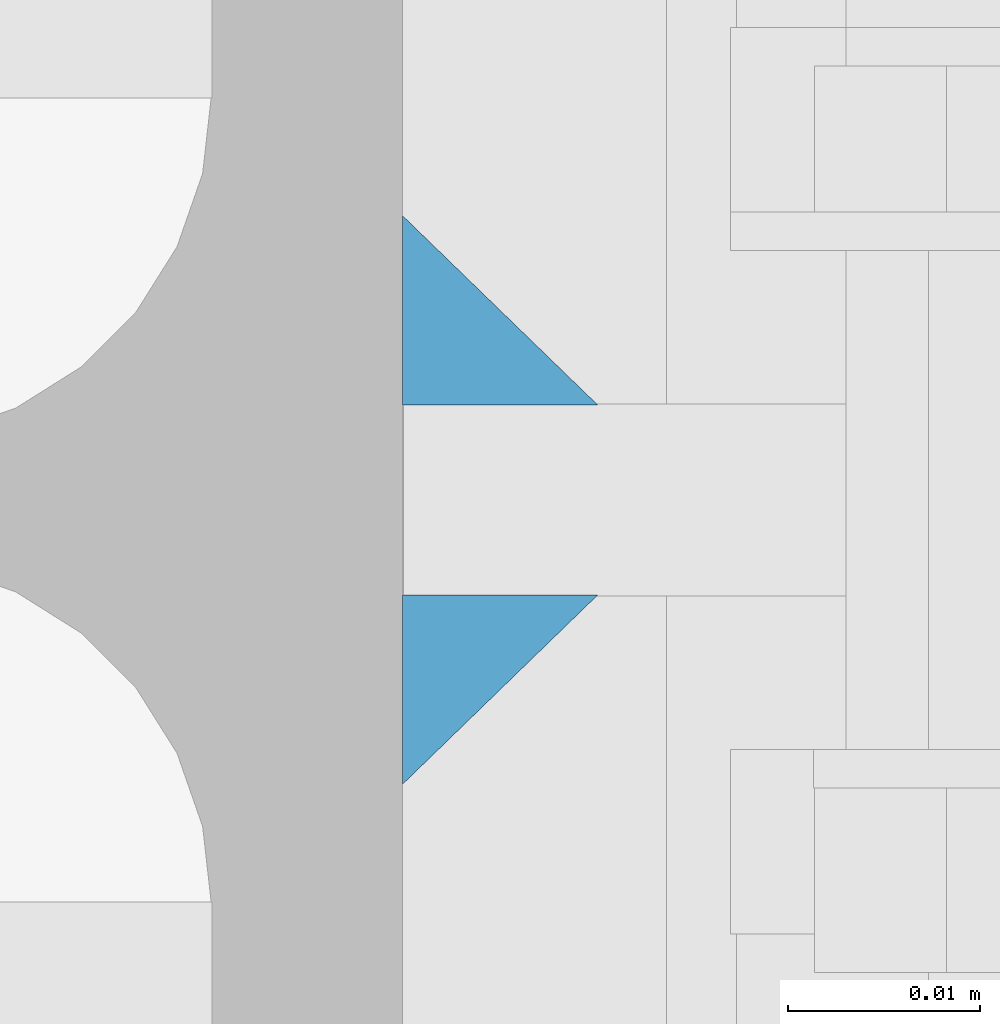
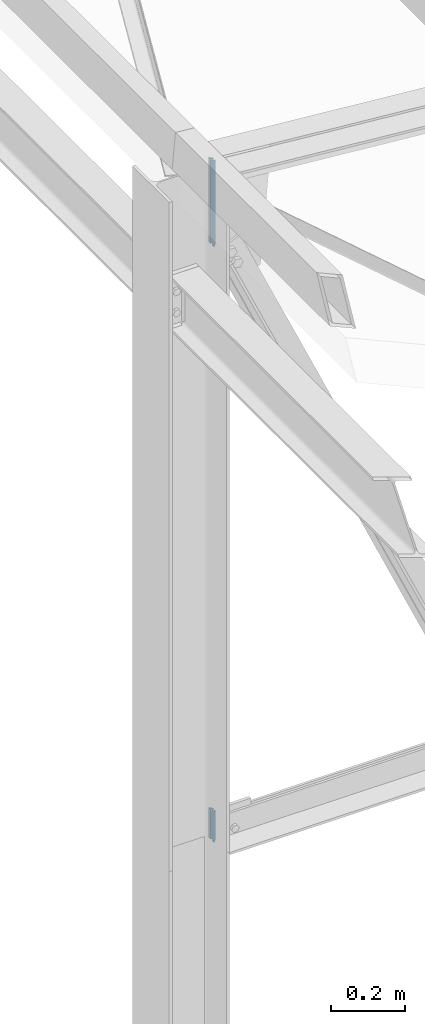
# One storey, part 24 of 251: 4 fasteners.
"""IFC4 building model written with IfcOpenShell, lengths in metres."""

from ifc_helpers import new_model, si_unit, frame, origin_with_axes, place, context, project, spatial, polyline, outline, extrude, type_object, element, save


model = new_model("IFC4")

# Units and contexts
model_context = context("Model", 3, precision=1e-05, world=origin_with_axes())
ifc_project = project(units=[si_unit("LENGTHUNIT", "METRE"), si_unit("AREAUNIT", "SQUARE_METRE"), si_unit("VOLUMEUNIT", "CUBIC_METRE"), si_unit("MASSUNIT", "GRAM", prefix="KILO"), si_unit("TIMEUNIT", "SECOND"), si_unit("PLANEANGLEUNIT", "RADIAN"), si_unit("SOLIDANGLEUNIT", "STERADIAN"), si_unit("THERMODYNAMICTEMPERATUREUNIT", "DEGREE_CELSIUS")], contexts=[model_context])

# Site, building, storey
placement_1 = place(None, origin_with_axes())
site = spatial("IfcSite", under=ifc_project, at=placement_1, Name="Italia", CompositionType="ELEMENT")
building = spatial("IfcBuilding", under=site, at=placement_1, Name="Deposito", CompositionType="ELEMENT")
storey = spatial("IfcBuildingStorey", under=building, at=placement_1, Name="Storey 0", CompositionType="ELEMENT", Elevation=0.0)

# Fasteners
fastener_type_1 = type_object("IfcFastenerType", Name="Reticolare 3", PredefinedType="WELD")
placement_2 = place(placement_1, origin_with_axes())
fastener_1_placement = place(placement_2, origin_with_axes())
element("IfcFastener", 1, at=fastener_1_placement, inside=storey, type_object=fastener_type_1, Name="Reticolare 3", context=model_context, shape_type="SweptSolid", body=[
    extrude(outline(polyline([(0.0, 0.0), (0.00986814, 0.0101733), (0.00986814, 0.0), (0.0, 0.0)])), frame((6.14495, 4.98518, 5.07805), z_axis=(0.0, 0.0, -1.0), x_axis=(0.0, 1.0, 0.0)), (0.0, 0.0, 1.0), 0.1001),
])
fastener_type_2 = type_object("IfcFastenerType", Name="Reticolare 3", PredefinedType="WELD")
fastener_2_placement = place(placement_2, origin_with_axes())
element("IfcFastener", 2, at=fastener_2_placement, inside=storey, type_object=fastener_type_2, Name="Reticolare 3", context=model_context, shape_type="SweptSolid", body=[
    extrude(outline(polyline([(0.0, 0.0), (-0.00986814, -0.0101733), (-0.00986814, 0.0), (0.0, 0.0)])), frame((6.14495, 5.01482, 4.97795), z_axis=(0.0, 0.0, 1.0), x_axis=(0.0, 1.0, 0.0)), (0.0, 0.0, 1.0), 0.1001),
])
fastener_type_3 = type_object("IfcFastenerType", Name="Reticolare 3", PredefinedType="WELD")
fastener_3_placement = place(placement_2, origin_with_axes())
element("IfcFastener", 3, at=fastener_3_placement, inside=storey, type_object=fastener_type_3, Name="Reticolare 3", context=model_context, shape_type="SweptSolid", body=[
    extrude(outline(polyline([(0.0, 0.0), (0.00986814, 0.0101733), (0.00986814, 0.0), (0.0, 0.0)])), frame((6.14495, 4.98518, 7.23455), z_axis=(0.0, 0.0, -1.0), x_axis=(0.0, 1.0, 0.0)), (0.0, 0.0, 1.0), 0.2803),
])
fastener_type_4 = type_object("IfcFastenerType", Name="Reticolare 3", PredefinedType="WELD")
fastener_4_placement = place(placement_2, origin_with_axes())
element("IfcFastener", 4, at=fastener_4_placement, inside=storey, type_object=fastener_type_4, Name="Reticolare 3", context=model_context, shape_type="SweptSolid", body=[
    extrude(outline(polyline([(0.0, 0.0), (-0.00986814, -0.0101733), (-0.00986814, 0.0), (0.0, 0.0)])), frame((6.14495, 5.01482, 6.95425), z_axis=(0.0, 0.0, 1.0), x_axis=(0.0, 1.0, 0.0)), (0.0, 0.0, 1.0), 0.2803),
])

save(model, "model.ifc")
